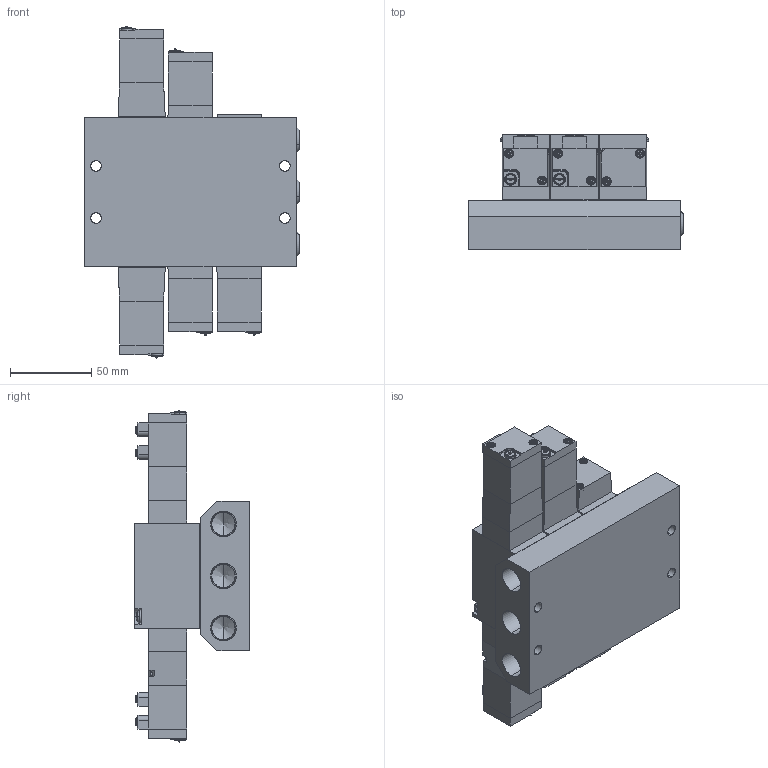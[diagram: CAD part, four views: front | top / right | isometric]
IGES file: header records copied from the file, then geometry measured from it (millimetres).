
Start section: SolidWorks IGES file using analytic representation for surfaces
Global section: file name: D:\Custom\3D繪製\PC\RC08\MFU#-RC08-L.IGS,1; native system: 5HSolidWorks 2014; preprocessor: SolidWorks 2014; author: Chieh_Lu; date: 151212.211227; units: millimetre
Bounding box: 131.89 x 70.62 x 203.95 mm (x, y, z)
Surface area: 174683 mm2 (no closed solid volume)
Topology: 0 solids, 0 shells, 1713 faces, 18124 edges, 18019 vertices
Faces by surface type: bspline 1042, revolution 671
